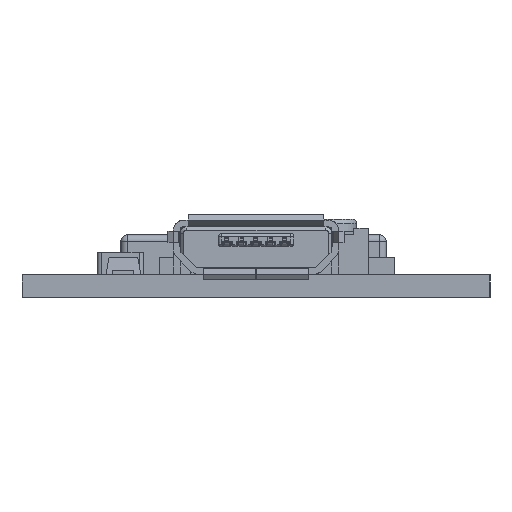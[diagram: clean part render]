
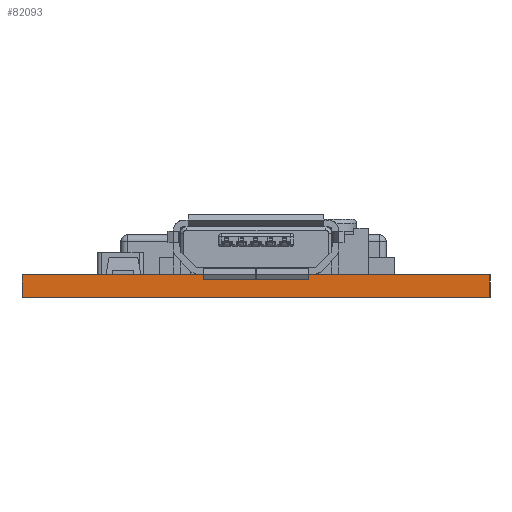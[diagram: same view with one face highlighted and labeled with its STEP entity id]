
A CAD part, left-side view. The second image highlights one B-rep face of the part: STEP entity #82093.
In plain terms, the highlighted planar face has unit normal (-1, 0, 0).
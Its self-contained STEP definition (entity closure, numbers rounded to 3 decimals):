
#264 = EDGE_CURVE ( 'NONE', #55634, #35927, #89648, .T. ) ;
#1185 = DIRECTION ( 'NONE',  ( 1., 0., 0. ) ) ;
#2390 = CARTESIAN_POINT ( 'NONE',  ( -25.5, 10.5, 0.01 ) ) ;
#2539 = LINE ( 'NONE', #47967, #80908 ) ;
#4469 = VERTEX_POINT ( 'NONE', #62749 ) ;
#5812 = DIRECTION ( 'NONE',  ( 0., 0., -1. ) ) ;
#6500 = VERTEX_POINT ( 'NONE', #7244 ) ;
#7244 = CARTESIAN_POINT ( 'NONE',  ( -25.5, 10.5, 1.01 ) ) ;
#9104 = DIRECTION ( 'NONE',  ( 0., 0., -1. ) ) ;
#11819 = DIRECTION ( 'NONE',  ( 0., -1., 0. ) ) ;
#14296 = VECTOR ( 'NONE', #9104, 1000. ) ;
#15489 = EDGE_CURVE ( 'NONE', #4469, #35927, #27828, .T. ) ;
#17089 = PLANE ( 'NONE',  #22951 ) ;
#22951 = AXIS2_PLACEMENT_3D ( 'NONE', #85806, #1185, #44901 ) ;
#26490 = ORIENTED_EDGE ( 'NONE', *, *, #264, .T. ) ;
#27828 = LINE ( 'NONE', #72870, #14296 ) ;
#32397 = ORIENTED_EDGE ( 'NONE', *, *, #38204, .T. ) ;
#35927 = VERTEX_POINT ( 'NONE', #44595 ) ;
#38204 = EDGE_CURVE ( 'NONE', #6500, #55634, #81840, .T. ) ;
#38246 = VECTOR ( 'NONE', #11819, 1000. ) ;
#40786 = ORIENTED_EDGE ( 'NONE', *, *, #57068, .F. ) ;
#43039 = ORIENTED_EDGE ( 'NONE', *, *, #15489, .F. ) ;
#44595 = CARTESIAN_POINT ( 'NONE',  ( -25.5, -10.5, 0.01 ) ) ;
#44901 = DIRECTION ( 'NONE',  ( 0., 1., 0. ) ) ;
#47967 = CARTESIAN_POINT ( 'NONE',  ( -25.5, 10.5, 1.01 ) ) ;
#53223 = CARTESIAN_POINT ( 'NONE',  ( -25.5, 10.5, 1.01 ) ) ;
#55634 = VERTEX_POINT ( 'NONE', #2390 ) ;
#57068 = EDGE_CURVE ( 'NONE', #6500, #4469, #2539, .T. ) ;
#57677 = FACE_OUTER_BOUND ( 'NONE', #67309, .T. ) ;
#62047 = DIRECTION ( 'NONE',  ( 0., -1., 0. ) ) ;
#62749 = CARTESIAN_POINT ( 'NONE',  ( -25.5, -10.5, 1.01 ) ) ;
#67309 = EDGE_LOOP ( 'NONE', ( #26490, #43039, #40786, #32397 ) ) ;
#67892 = CARTESIAN_POINT ( 'NONE',  ( -25.5, 10.5, 0.01 ) ) ;
#70973 = VECTOR ( 'NONE', #5812, 1000. ) ;
#72870 = CARTESIAN_POINT ( 'NONE',  ( -25.5, -10.5, 1.01 ) ) ;
#80908 = VECTOR ( 'NONE', #62047, 1000. ) ;
#81840 = LINE ( 'NONE', #53223, #70973 ) ;
#82093 = ADVANCED_FACE ( 'NONE', ( #57677 ), #17089, .F. ) ;
#85806 = CARTESIAN_POINT ( 'NONE',  ( -25.5, 10.5, 1.01 ) ) ;
#89648 = LINE ( 'NONE', #67892, #38246 ) ;
